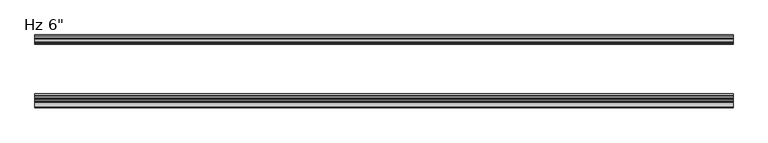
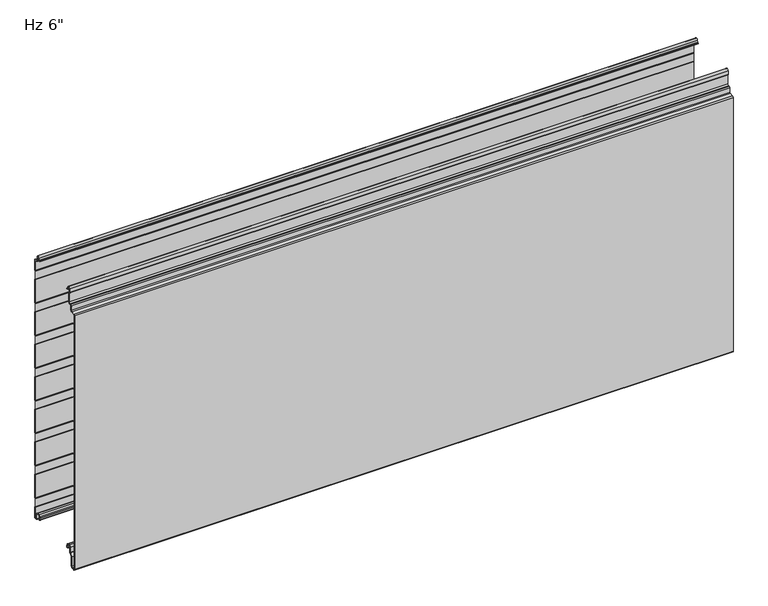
"""IFC4 building model written with IfcOpenShell, lengths in millimetres: plate geometry."""

from ifc_helpers import new_model, si_unit, point, frame, frame_2d, origin, place, context, project, spatial, polyline, circle_curve, trimmed, segment, composite_curve, outline, extrude, source, transform, mapped, element, save
from ifc_brep_helpers import plane_surface, cylinder_surface, revolved_surface, advanced_brep


def plate_39003616(model_context):
    return source(origin(), model_context, "Body", "SolidModel", [
        advanced_brep(
        [(-730.0, -17.0015159, 2.0313088), (-730.0, -18.0015191, 1.0313116), (-730.0, -19.0015104, 2.0313088), (-730.0, -19.0015105, 6.0315125), (-730.0, -18.0015159, 6.0315125), (-730.0, -18.0015159, 8.7237223), (-730.0, -14.7015202, 12.023718), (-730.0, -10.301529, 12.023718), (-730.0, -7.0015335, 8.7237225), (-730.0, -7.0015335, -1.6962564), (-730.0, -5.2315393, -3.4662506), (-730.0, -0.9999916, -3.4662506), (-730.0, -0.9999916, 21.034026), (-730.0, -2.2002307, 22.4196686), (-730.0, -2.2002307, 41.7948349), (-730.0, -1.0, 43.1804679), (-730.0, -1.0, 97.2338833), (-730.0, -2.2002307, 98.6195162), (-730.0, -2.2002307, 117.9946825), (-730.0, -1.0, 119.3803155), (-730.0, -1.0, 173.4337309), (-730.0, -2.2002307, 174.8193638), (-730.0, -2.2002307, 194.1945301), (-730.0, -1.0, 195.5801631), (-730.0, -1.0, 249.6335785), (-730.0, -2.2002307, 251.0192114), (-730.0, -2.2002307, 270.3943777), (-730.0, -1.0, 271.7800107), (-730.0, -1.0, 325.8334261), (-730.0, -2.2002307, 327.219059), (-730.0, -2.2002307, 346.5942253), (-730.0, -1.0, 347.9798583), (-730.0, -1.0, 402.0332737), (-730.0, -2.2002307, 403.4189066), (-730.0, -2.2002307, 422.7940729), (-730.0, -1.0, 424.1797059), (-730.0, -1.0, 478.2331213), (-730.0, -2.2002307, 479.6187542), (-730.0, -2.2002307, 498.9939205), (-730.0, -1.0, 500.3795535), (-730.0, -1.0, 554.4329689), (-730.0, -2.2002307, 555.8186018), (-730.0, -2.2002307, 575.1937681), (-730.0, -1.0, 576.5794011), (-730.0, -1.0, 601.0787013), (-730.0, -6.0026007, 601.0787013), (-730.0, -9.9974365, 604.9016499), (-730.0, -10.4046442, 613.3931719), (-730.0, -14.7059822, 613.3921924), (-730.0, -14.9256429, 609.2513685), (-730.0, -16.6743462, 607.5686884), (-730.0, -19.0015288, 607.5686884), (-730.0, -19.0015288, 608.5686884), (-730.0, -16.6743462, 608.5686884), (-730.0, -15.9247038, 609.2955779), (-730.0, -15.7045782, 613.4451655), (-730.0, -9.405912, 613.4435732), (-730.0, -8.9985844, 604.9495495), (-730.0, -6.0004836, 602.0787013), (-730.0, -1.4015652, 602.0787013), (-730.0, -0.001568, 600.678797), (-730.0, 2.09e-05, 576.7275849), (-730.0, -0.3417885, 575.8119353), (-730.0, -1.2002307, 574.8208877), (-730.0, -1.2002307, 556.1914823), (-730.0, -0.3417885, 555.2004346), (-730.0, 0.0, 554.2838177), (-730.0, 0.0, 500.5287046), (-730.0, -0.3417885, 499.6120877), (-730.0, -1.2002307, 498.6210401), (-730.0, -1.2002307, 479.9916347), (-730.0, -0.3417885, 479.000587), (-730.0, 0.0, 478.0839701), (-730.0, 0.0, 424.328857), (-730.0, -0.3417885, 423.4122401), (-730.0, -1.2002307, 422.4211925), (-730.0, -1.2002307, 403.7917871), (-730.0, -0.3417885, 402.8007394), (-730.0, 0.0, 401.8841225), (-730.0, 0.0, 348.1290094), (-730.0, -0.3417885, 347.2123925), (-730.0, -1.2002307, 346.2213449), (-730.0, -1.2002307, 327.5919395), (-730.0, -0.3417885, 326.6008918), (-730.0, 0.0, 325.6842749), (-730.0, 0.0, 271.9291618), (-730.0, -0.3417885, 271.0125449), (-730.0, -1.2002307, 270.0214973), (-730.0, -1.2002307, 251.3920919), (-730.0, -0.3417885, 250.4010442), (-730.0, 0.0, 249.4844273), (-730.0, 0.0, 195.7293142), (-730.0, -0.3417885, 194.8126973), (-730.0, -1.2002307, 193.8216497), (-730.0, -1.2002307, 175.1922443), (-730.0, -0.3417885, 174.2011966), (-730.0, 0.0, 173.2845797), (-730.0, 0.0, 119.5294666), (-730.0, -0.3417885, 118.6128497), (-730.0, -1.2002307, 117.6218021), (-730.0, -1.2002307, 98.9923967), (-730.0, -0.3417885, 98.001349), (-730.0, 0.0, 97.0847321), (-730.0, 0.0, 43.329619), (-730.0, -0.3417885, 42.4130021), (-730.0, -1.2002307, 41.4219545), (-730.0, -1.2002307, 22.7925491), (-730.0, -0.3417885, 21.8015014), (-730.0, 0.0, 20.8847931), (-730.0, 8.4e-06, -3.0662545), (-730.0, -1.3999878, -4.4662506), (-730.0, -5.2315393, -4.4662506), (-730.0, -8.0015335, -1.6962564), (-730.0, -8.0015335, 8.7237225), (-730.0, -10.301529, 11.023718), (-730.0, -14.7015202, 11.023718), (-730.0, -17.0015159, 8.7237223), (730.0, -17.0015159, 2.0313088), (730.0, -17.0015159, 8.7237223), (730.0, -14.7015202, 11.023718), (730.0, -10.301529, 11.023718), (730.0, -8.0015335, 8.7237225), (730.0, -8.0015335, -1.6962564), (730.0, -5.2315393, -4.4662506), (730.0, -1.3999878, -4.4662506), (730.0, 8.4e-06, -3.0662545), (730.0, 8.4e-06, 20.8848845), (730.0, -0.3417885, 21.8015014), (730.0, -1.2002307, 22.7925491), (730.0, -1.2002307, 41.4219545), (730.0, -0.3417885, 42.4130021), (730.0, 0.0, 43.329619), (730.0, 0.0, 97.0847321), (730.0, -0.3417885, 98.001349), (730.0, -1.2002307, 98.9923967), (730.0, -1.2002307, 117.6218021), (730.0, -0.3417885, 118.6128497), (730.0, 0.0, 119.5294666), (730.0, 0.0, 173.2845797), (730.0, -0.3417885, 174.2011966), (730.0, -1.2002307, 175.1922443), (730.0, -1.2002307, 193.8216497), (730.0, -0.3417885, 194.8126973), (730.0, 0.0, 195.7293142), (730.0, 0.0, 249.4844273), (730.0, -0.3417885, 250.4010442), (730.0, -1.2002307, 251.3920919), (730.0, -1.2002307, 270.0214973), (730.0, -0.3417885, 271.0125449), (730.0, 0.0, 271.9291618), (730.0, 0.0, 325.6842749), (730.0, -0.3417885, 326.6008918), (730.0, -1.2002307, 327.5919395), (730.0, -1.2002307, 346.2213449), (730.0, -0.3417885, 347.2123925), (730.0, 0.0, 348.1290094), (730.0, 0.0, 401.8841225), (730.0, -0.3417885, 402.8007394), (730.0, -1.2002307, 403.7917871), (730.0, -1.2002307, 422.4211925), (730.0, -0.3417885, 423.4122401), (730.0, 0.0, 424.328857), (730.0, 0.0, 478.0839701), (730.0, -0.3417885, 479.000587), (730.0, -1.2002307, 479.9916347), (730.0, -1.2002307, 498.6210401), (730.0, -0.3417885, 499.6120877), (730.0, 0.0, 500.5287046), (730.0, 0.0, 554.2838177), (730.0, -0.3417885, 555.2004346), (730.0, -1.2002307, 556.1914823), (730.0, -1.2002307, 574.8208877), (730.0, -0.3417885, 575.8119353), (730.0, 0.0, 576.7285522), (730.0, 2.09e-05, 600.678797), (730.0, -1.4015652, 602.0787013), (730.0, -6.0004836, 602.0787013), (730.0, -8.9985844, 604.9495495), (730.0, -9.405912, 613.4435732), (730.0, -15.7045782, 613.4451655), (730.0, -15.9247038, 609.2955779), (730.0, -16.6743462, 608.5686884), (730.0, -19.0015288, 608.5686884), (730.0, -19.0015288, 607.5686884), (730.0, -16.6743462, 607.5686884), (730.0, -14.9256429, 609.2513685), (730.0, -14.7059822, 613.3921924), (730.0, -10.4046442, 613.3931719), (730.0, -9.9974365, 604.9016499), (730.0, -6.0026007, 601.0787013), (730.0, -1.0, 601.0787013), (730.0, -1.0, 576.5794011), (730.0, -2.2002307, 575.1937681), (730.0, -2.2002307, 555.8186018), (730.0, -1.0, 554.4329689), (730.0, -1.0, 500.3795535), (730.0, -2.2002307, 498.9939205), (730.0, -2.2002307, 479.6187542), (730.0, -1.0, 478.2331213), (730.0, -1.0, 424.1797059), (730.0, -2.2002307, 422.7940729), (730.0, -2.2002307, 403.4189066), (730.0, -1.0, 402.0332737), (730.0, -1.0, 347.9798583), (730.0, -2.2002307, 346.5942253), (730.0, -2.2002307, 327.219059), (730.0, -1.0, 325.8334261), (730.0, -1.0, 271.7800107), (730.0, -2.2002307, 270.3943777), (730.0, -2.2002307, 251.0192114), (730.0, -1.0, 249.6335785), (730.0, -1.0, 195.5801631), (730.0, -2.2002307, 194.1945301), (730.0, -2.2002307, 174.8193638), (730.0, -1.0, 173.4337309), (730.0, -1.0, 119.3803155), (730.0, -2.2002307, 117.9946825), (730.0, -2.2002307, 98.6195162), (730.0, -1.0, 97.2338833), (730.0, -1.0, 43.1804679), (730.0, -2.2002307, 41.7948349), (730.0, -2.2002307, 22.4196686), (730.0, -0.9999916, 21.034026), (730.0, -0.9999916, -3.4662506), (730.0, -5.2315393, -3.4662506), (730.0, -7.0015335, -1.6962564), (730.0, -7.0015335, 8.7237225), (730.0, -10.301529, 12.023718), (730.0, -14.7015202, 12.023718), (730.0, -18.0015159, 8.7237223), (730.0, -18.0015159, 6.0315125), (730.0, -19.0015105, 6.0315125), (730.0, -19.0015105, 2.0313088), (730.0, -18.0015191, 1.0313116)],
        [
            (0, 1, circle_curve(frame((-730.0, -18.0015132, 2.0313088), z_axis=(-1.0, 0.0, 0.0), x_axis=(0.0, 0.0, 1.0)), 0.9999973)),
            (1, 2, circle_curve(frame((-730.0, -18.0015132, 2.0313088), z_axis=(-1.0, 0.0, 0.0), x_axis=(0.0, 0.0, 1.0)), 0.9999972)),
            (2, 3),
            (3, 4),
            (4, 5),
            (5, 6, circle_curve(frame((-730.0, -14.7015202, 8.7237223), z_axis=(-1.0, 0.0, 0.0), x_axis=(0.0, 0.0, 1.0)), 3.2999957)),
            (6, 7),
            (7, 8, circle_curve(frame((-730.0, -10.301529, 8.7237225), z_axis=(-1.0, 0.0, 0.0), x_axis=(0.0, 0.0, 1.0)), 3.2999955)),
            (8, 9),
            (9, 10, circle_curve(frame((-730.0, -5.2315393, -1.6962564), z_axis=(1.0, 0.0, 0.0), x_axis=(0.0, 0.0, 1.0)), 1.7699942)),
            (10, 11),
            (11, 12),
            (12, 13),
            (13, 14),
            (14, 15),
            (15, 16),
            (16, 17),
            (17, 18),
            (18, 19),
            (19, 20),
            (20, 21),
            (21, 22),
            (22, 23),
            (23, 24),
            (24, 25),
            (25, 26),
            (26, 27),
            (27, 28),
            (28, 29),
            (29, 30),
            (30, 31),
            (31, 32),
            (32, 33),
            (33, 34),
            (34, 35),
            (35, 36),
            (36, 37),
            (37, 38),
            (38, 39),
            (39, 40),
            (40, 41),
            (41, 42),
            (42, 43),
            (43, 44),
            (44, 45),
            (45, 46, circle_curve(frame((-730.0, -5.9867338, 605.0939817), z_axis=(-1.0, 0.0, 0.0), x_axis=(0.0, 0.0, 1.0)), 4.0153117)),
            (46, 47),
            (47, 48, circle_curve(frame((-730.0, -12.5552871, 613.2781032), z_axis=(1.0, 0.0, 0.0), x_axis=(0.0, 0.0, 1.0)), 2.153719)),
            (48, 49),
            (49, 50, circle_curve(frame((-730.0, -16.6743462, 609.3186869), z_axis=(-1.0, 0.0, 0.0), x_axis=(0.0, 0.0, 1.0)), 1.7499985)),
            (50, 51),
            (51, 52),
            (52, 53),
            (53, 54, circle_curve(frame((-730.0, -16.6743462, 609.3186869), z_axis=(1.0, 0.0, 0.0), x_axis=(0.0, 0.0, 1.0)), 0.7499985)),
            (54, 55),
            (55, 56, circle_curve(frame((-730.0, -12.5552871, 613.2781032), z_axis=(-1.0, 0.0, 0.0), x_axis=(0.0, 0.0, 1.0)), 3.153719)),
            (56, 57),
            (57, 58, circle_curve(frame((-730.0, -5.9867338, 605.0939817), z_axis=(1.0, 0.0, 0.0), x_axis=(0.0, 0.0, 1.0)), 3.0153117)),
            (58, 59),
            (59, 60, circle_curve(frame((-730.0, -1.4015652, 600.6787041), z_axis=(-1.0, 0.0, 0.0), x_axis=(0.0, 0.0, 1.0)), 1.3999972)),
            (60, 61),
            (61, 62, circle_curve(frame((-730.0, -1.3999972, 576.7285522), z_axis=(-1.0, 0.0, 0.0), x_axis=(0.0, 0.0, 1.0)), 1.3999972)),
            (62, 63),
            (63, 64),
            (64, 65),
            (65, 66, circle_curve(frame((-730.0, -1.3999972, 554.2838177), z_axis=(-1.0, 0.0, 0.0), x_axis=(0.0, 0.0, 1.0)), 1.3999972)),
            (66, 67),
            (67, 68, circle_curve(frame((-730.0, -1.3999972, 500.5287046), z_axis=(-1.0, 0.0, 0.0), x_axis=(0.0, 0.0, 1.0)), 1.3999972)),
            (68, 69),
            (69, 70),
            (70, 71),
            (71, 72, circle_curve(frame((-730.0, -1.3999972, 478.0839701), z_axis=(-1.0, 0.0, 0.0), x_axis=(0.0, 0.0, 1.0)), 1.3999972)),
            (72, 73),
            (73, 74, circle_curve(frame((-730.0, -1.3999972, 424.328857), z_axis=(-1.0, 0.0, 0.0), x_axis=(0.0, 0.0, 1.0)), 1.3999972)),
            (74, 75),
            (75, 76),
            (76, 77),
            (77, 78, circle_curve(frame((-730.0, -1.3999972, 401.8841225), z_axis=(-1.0, 0.0, 0.0), x_axis=(0.0, 0.0, 1.0)), 1.3999972)),
            (78, 79),
            (79, 80, circle_curve(frame((-730.0, -1.3999972, 348.1290094), z_axis=(-1.0, 0.0, 0.0), x_axis=(0.0, 0.0, 1.0)), 1.3999972)),
            (80, 81),
            (81, 82),
            (82, 83),
            (83, 84, circle_curve(frame((-730.0, -1.3999972, 325.6842749), z_axis=(-1.0, 0.0, 0.0), x_axis=(0.0, 0.0, 1.0)), 1.3999972)),
            (84, 85),
            (85, 86, circle_curve(frame((-730.0, -1.3999972, 271.9291618), z_axis=(-1.0, 0.0, 0.0), x_axis=(0.0, 0.0, 1.0)), 1.3999972)),
            (86, 87),
            (87, 88),
            (88, 89),
            (89, 90, circle_curve(frame((-730.0, -1.3999972, 249.4844273), z_axis=(-1.0, 0.0, 0.0), x_axis=(0.0, 0.0, 1.0)), 1.3999972)),
            (90, 91),
            (91, 92, circle_curve(frame((-730.0, -1.3999972, 195.7293142), z_axis=(-1.0, 0.0, 0.0), x_axis=(0.0, 0.0, 1.0)), 1.3999972)),
            (92, 93),
            (93, 94),
            (94, 95),
            (95, 96, circle_curve(frame((-730.0, -1.3999972, 173.2845797), z_axis=(-1.0, 0.0, 0.0), x_axis=(0.0, 0.0, 1.0)), 1.3999972)),
            (96, 97),
            (97, 98, circle_curve(frame((-730.0, -1.3999972, 119.5294666), z_axis=(-1.0, 0.0, 0.0), x_axis=(0.0, 0.0, 1.0)), 1.3999972)),
            (98, 99),
            (99, 100),
            (100, 101),
            (101, 102, circle_curve(frame((-730.0, -1.3999972, 97.0847321), z_axis=(-1.0, 0.0, 0.0), x_axis=(0.0, 0.0, 1.0)), 1.3999972)),
            (102, 103),
            (103, 104, circle_curve(frame((-730.0, -1.3999972, 43.329619), z_axis=(-1.0, 0.0, 0.0), x_axis=(0.0, 0.0, 1.0)), 1.3999972)),
            (104, 105),
            (105, 106),
            (106, 107),
            (107, 108, circle_curve(frame((-730.0, -1.3999972, 20.8848845), z_axis=(-1.0, 0.0, 0.0), x_axis=(0.0, 0.0, 1.0)), 1.3999972)),
            (108, 109),
            (109, 110, circle_curve(frame((-730.0, -1.3999878, -3.0662545), z_axis=(-1.0, 0.0, 0.0), x_axis=(0.0, 0.0, 1.0)), 1.3999962)),
            (110, 111),
            (111, 112, circle_curve(frame((-730.0, -5.2315393, -1.6962564), z_axis=(-1.0, 0.0, 0.0), x_axis=(0.0, 0.0, 1.0)), 2.7699942)),
            (112, 113),
            (113, 114, circle_curve(frame((-730.0, -10.301529, 8.7237225), z_axis=(1.0, 0.0, 0.0), x_axis=(0.0, 0.0, 1.0)), 2.2999955)),
            (114, 115),
            (115, 116, circle_curve(frame((-730.0, -14.7015202, 8.7237223), z_axis=(1.0, 0.0, 0.0), x_axis=(0.0, 0.0, 1.0)), 2.2999957)),
            (116, 0),
            (117, 118),
            (118, 119, circle_curve(frame((730.0, -14.7015202, 8.7237223), z_axis=(-1.0, 0.0, 0.0), x_axis=(0.0, 0.0, 1.0)), 2.2999957)),
            (119, 120),
            (120, 121, circle_curve(frame((730.0, -10.301529, 8.7237225), z_axis=(-1.0, 0.0, 0.0), x_axis=(0.0, 0.0, 1.0)), 2.2999955)),
            (121, 122),
            (122, 123, circle_curve(frame((730.0, -5.2315393, -1.6962564), z_axis=(1.0, 0.0, 0.0), x_axis=(0.0, 0.0, 1.0)), 2.7699942)),
            (123, 124),
            (124, 125, circle_curve(frame((730.0, -1.3999878, -3.0662545), z_axis=(1.0, 0.0, 0.0), x_axis=(0.0, 0.0, 1.0)), 1.3999962)),
            (125, 126),
            (126, 127, circle_curve(frame((730.0, -1.3999972, 20.8848845), z_axis=(1.0, 0.0, 0.0), x_axis=(0.0, 0.0, 1.0)), 1.3999972)),
            (127, 128),
            (128, 129),
            (129, 130),
            (130, 131, circle_curve(frame((730.0, -1.3999972, 43.329619), z_axis=(1.0, 0.0, 0.0), x_axis=(0.0, 0.0, 1.0)), 1.3999972)),
            (131, 132),
            (132, 133, circle_curve(frame((730.0, -1.3999972, 97.0847321), z_axis=(1.0, 0.0, 0.0), x_axis=(0.0, 0.0, 1.0)), 1.3999972)),
            (133, 134),
            (134, 135),
            (135, 136),
            (136, 137, circle_curve(frame((730.0, -1.3999972, 119.5294666), z_axis=(1.0, 0.0, 0.0), x_axis=(0.0, 0.0, 1.0)), 1.3999972)),
            (137, 138),
            (138, 139, circle_curve(frame((730.0, -1.3999972, 173.2845797), z_axis=(1.0, 0.0, 0.0), x_axis=(0.0, 0.0, 1.0)), 1.3999972)),
            (139, 140),
            (140, 141),
            (141, 142),
            (142, 143, circle_curve(frame((730.0, -1.3999972, 195.7293142), z_axis=(1.0, 0.0, 0.0), x_axis=(0.0, 0.0, 1.0)), 1.3999972)),
            (143, 144),
            (144, 145, circle_curve(frame((730.0, -1.3999972, 249.4844273), z_axis=(1.0, 0.0, 0.0), x_axis=(0.0, 0.0, 1.0)), 1.3999972)),
            (145, 146),
            (146, 147),
            (147, 148),
            (148, 149, circle_curve(frame((730.0, -1.3999972, 271.9291618), z_axis=(1.0, 0.0, 0.0), x_axis=(0.0, 0.0, 1.0)), 1.3999972)),
            (149, 150),
            (150, 151, circle_curve(frame((730.0, -1.3999972, 325.6842749), z_axis=(1.0, 0.0, 0.0), x_axis=(0.0, 0.0, 1.0)), 1.3999972)),
            (151, 152),
            (152, 153),
            (153, 154),
            (154, 155, circle_curve(frame((730.0, -1.3999972, 348.1290094), z_axis=(1.0, 0.0, 0.0), x_axis=(0.0, 0.0, 1.0)), 1.3999972)),
            (155, 156),
            (156, 157, circle_curve(frame((730.0, -1.3999972, 401.8841225), z_axis=(1.0, 0.0, 0.0), x_axis=(0.0, 0.0, 1.0)), 1.3999972)),
            (157, 158),
            (158, 159),
            (159, 160),
            (160, 161, circle_curve(frame((730.0, -1.3999972, 424.328857), z_axis=(1.0, 0.0, 0.0), x_axis=(0.0, 0.0, 1.0)), 1.3999972)),
            (161, 162),
            (162, 163, circle_curve(frame((730.0, -1.3999972, 478.0839701), z_axis=(1.0, 0.0, 0.0), x_axis=(0.0, 0.0, 1.0)), 1.3999972)),
            (163, 164),
            (164, 165),
            (165, 166),
            (166, 167, circle_curve(frame((730.0, -1.3999972, 500.5287046), z_axis=(1.0, 0.0, 0.0), x_axis=(0.0, 0.0, 1.0)), 1.3999972)),
            (167, 168),
            (168, 169, circle_curve(frame((730.0, -1.3999972, 554.2838177), z_axis=(1.0, 0.0, 0.0), x_axis=(0.0, 0.0, 1.0)), 1.3999972)),
            (169, 170),
            (170, 171),
            (171, 172),
            (172, 173, circle_curve(frame((730.0, -1.3999972, 576.7285522), z_axis=(1.0, 0.0, 0.0), x_axis=(0.0, 0.0, 1.0)), 1.3999972)),
            (173, 174),
            (174, 175, circle_curve(frame((730.0, -1.4015652, 600.6787041), z_axis=(1.0, 0.0, 0.0), x_axis=(0.0, 0.0, 1.0)), 1.3999972)),
            (175, 176),
            (176, 177, circle_curve(frame((730.0, -5.9867338, 605.0939817), z_axis=(-1.0, 0.0, 0.0), x_axis=(0.0, 0.0, 1.0)), 3.0153117)),
            (177, 178),
            (178, 179, circle_curve(frame((730.0, -12.5552871, 613.2781032), z_axis=(1.0, 0.0, 0.0), x_axis=(0.0, 0.0, 1.0)), 3.153719)),
            (179, 180),
            (180, 181, circle_curve(frame((730.0, -16.6743462, 609.3186869), z_axis=(-1.0, 0.0, 0.0), x_axis=(0.0, 0.0, 1.0)), 0.7499985)),
            (181, 182),
            (182, 183),
            (183, 184),
            (184, 185, circle_curve(frame((730.0, -16.6743462, 609.3186869), z_axis=(1.0, 0.0, 0.0), x_axis=(0.0, 0.0, 1.0)), 1.7499985)),
            (185, 186),
            (186, 187, circle_curve(frame((730.0, -12.5552871, 613.2781032), z_axis=(-1.0, 0.0, 0.0), x_axis=(0.0, 0.0, 1.0)), 2.153719)),
            (187, 188),
            (188, 189, circle_curve(frame((730.0, -5.9867338, 605.0939817), z_axis=(1.0, 0.0, 0.0), x_axis=(0.0, 0.0, 1.0)), 4.0153117)),
            (189, 190),
            (190, 191),
            (191, 192),
            (192, 193),
            (193, 194),
            (194, 195),
            (195, 196),
            (196, 197),
            (197, 198),
            (198, 199),
            (199, 200),
            (200, 201),
            (201, 202),
            (202, 203),
            (203, 204),
            (204, 205),
            (205, 206),
            (206, 207),
            (207, 208),
            (208, 209),
            (209, 210),
            (210, 211),
            (211, 212),
            (212, 213),
            (213, 214),
            (214, 215),
            (215, 216),
            (216, 217),
            (217, 218),
            (218, 219),
            (219, 220),
            (220, 221),
            (221, 222),
            (222, 223),
            (223, 224),
            (224, 225, circle_curve(frame((730.0, -5.2315393, -1.6962564), z_axis=(-1.0, 0.0, 0.0), x_axis=(0.0, 0.0, 1.0)), 1.7699942)),
            (225, 226),
            (226, 227, circle_curve(frame((730.0, -10.301529, 8.7237225), z_axis=(1.0, 0.0, 0.0), x_axis=(0.0, 0.0, 1.0)), 3.2999955)),
            (227, 228),
            (228, 229, circle_curve(frame((730.0, -14.7015202, 8.7237223), z_axis=(1.0, 0.0, 0.0), x_axis=(0.0, 0.0, 1.0)), 3.2999957)),
            (229, 230),
            (230, 231),
            (231, 232),
            (232, 233, circle_curve(frame((730.0, -18.0015132, 2.0313088), z_axis=(1.0, 0.0, 0.0), x_axis=(0.0, 0.0, 1.0)), 0.9999972)),
            (233, 117, circle_curve(frame((730.0, -18.0015132, 2.0313088), z_axis=(1.0, 0.0, 0.0), x_axis=(0.0, 0.0, 1.0)), 0.9999973)),
            (116, 118),
            (117, 0),
            (115, 119),
            (114, 120),
            (113, 121),
            (112, 122),
            (111, 123),
            (110, 124),
            (109, 125),
            (108, 126),
            (90, 144),
            (143, 91),
            (107, 127),
            (106, 128),
            (105, 129),
            (103, 131),
            (130, 104),
            (101, 133),
            (132, 102),
            (86, 148),
            (147, 87),
            (142, 92),
            (141, 93),
            (96, 138),
            (137, 97),
            (89, 145),
            (88, 146),
            (85, 149),
            (136, 98),
            (99, 135),
            (134, 100),
            (95, 139),
            (94, 140),
            (2, 232),
            (231, 3),
            (1, 233),
            (84, 150),
            (83, 151),
            (82, 152),
            (81, 153),
            (80, 154),
            (79, 155),
            (78, 156),
            (77, 157),
            (76, 158),
            (75, 159),
            (74, 160),
            (73, 161),
            (72, 162),
            (71, 163),
            (70, 164),
            (69, 165),
            (68, 166),
            (67, 167),
            (66, 168),
            (65, 169),
            (64, 170),
            (63, 171),
            (62, 172),
            (61, 173),
            (60, 174),
            (59, 175),
            (58, 176),
            (57, 177),
            (56, 178),
            (55, 179),
            (54, 180),
            (53, 181),
            (52, 182),
            (51, 183),
            (50, 184),
            (49, 185),
            (48, 186),
            (47, 187),
            (46, 188),
            (45, 189),
            (44, 190),
            (43, 191),
            (42, 192),
            (41, 193),
            (40, 194),
            (39, 195),
            (38, 196),
            (37, 197),
            (36, 198),
            (35, 199),
            (34, 200),
            (33, 201),
            (32, 202),
            (31, 203),
            (30, 204),
            (29, 205),
            (28, 206),
            (27, 207),
            (26, 208),
            (25, 209),
            (24, 210),
            (23, 211),
            (22, 212),
            (21, 213),
            (20, 214),
            (19, 215),
            (18, 216),
            (17, 217),
            (16, 218),
            (15, 219),
            (14, 220),
            (13, 221),
            (12, 222),
            (11, 223),
            (10, 224),
            (9, 225),
            (8, 226),
            (7, 227),
            (6, 228),
            (5, 229),
            (4, 230),
        ],
        [
            plane_surface(frame((-730.0, 0.0, 304.8), z_axis=(-1.0, 0.0, 0.0), x_axis=(0.0, 1.0, 0.0))),
            plane_surface(frame((730.0, 0.0, 304.8), z_axis=(1.0, 0.0, 0.0), x_axis=(0.0, 1.0, 0.0))),
            plane_surface(frame((-730.0, -17.0015159, 2.0313088), z_axis=(0.0, 1.0, 0.0), x_axis=(1.0, 0.0, 0.0))),
            revolved_surface(polyline([(730.0, -14.7015202, 11.023718), (-730.0, -14.7015202, 11.023718)]), (-730.0, -14.7015202, 8.7237223), (1.0, 0.0, 0.0)),
            plane_surface(frame((-730.0, -14.7015202, 11.023718), z_axis=(0.0, 0.0, -1.0), x_axis=(1.0, 0.0, 0.0))),
            revolved_surface(polyline([(730.0, -10.301529, 11.023717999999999), (-730.0, -10.301529, 11.023717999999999)]), (-730.0, -10.301529, 8.7237225), (1.0, 0.0, 0.0)),
            plane_surface(frame((-730.0, -8.0015335, 8.7237225), z_axis=(0.0, -1.0, 0.0), x_axis=(1.0, 0.0, 0.0))),
            cylinder_surface(frame((-730.0, -5.2315393, -1.6962564), z_axis=(-1.0, 0.0, 0.0), x_axis=(0.0, 0.0, 1.0)), 2.7699942),
            plane_surface(frame((-730.0, -5.2315393, -4.4662506), z_axis=(0.0, 0.0, -1.0), x_axis=(1.0, 0.0, 0.0))),
            cylinder_surface(frame((-730.0, -1.3999878, -3.0662545), z_axis=(-1.0, 0.0, 0.0), x_axis=(0.0, 0.0, 1.0)), 1.3999962),
            plane_surface(frame((-730.0, 8.4e-06, -3.0662545), z_axis=(0.0, 1.0, 0.0), x_axis=(1.0, 0.0, 0.0))),
            plane_surface(frame((-730.0, 0.0, 195.7293142), z_axis=(0.0, 1.0, 0.0), x_axis=(1.0, 0.0, 0.0))),
            cylinder_surface(frame((-730.0, -1.3999972, 20.8848845), z_axis=(-1.0, 0.0, 0.0), x_axis=(0.0, 0.0, 1.0)), 1.3999972),
            plane_surface(frame((-730.0, -0.3417885, 21.8015014), z_axis=(0.0, 0.755864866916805, 0.6547276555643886), x_axis=(1.0, 0.0, 0.0))),
            plane_surface(frame((-730.0, -1.2002307, 32.1072518), z_axis=(0.0, 1.0, 0.0), x_axis=(1.0, 0.0, 0.0))),
            cylinder_surface(frame((-730.0, -1.3999972, 43.329619), z_axis=(-1.0, 0.0, 0.0), x_axis=(0.0, 0.0, 1.0)), 1.3999972),
            plane_surface(frame((-730.0, -1.2002307, 41.4219545), z_axis=(0.0, 0.755864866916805, -0.6547276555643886), x_axis=(1.0, 0.0, 0.0))),
            cylinder_surface(frame((-730.0, -1.3999972, 97.0847321), z_axis=(-1.0, 0.0, 0.0), x_axis=(0.0, 0.0, 1.0)), 1.3999972),
            plane_surface(frame((-730.0, -1.2002307, 270.0214973), z_axis=(0.0, 0.755864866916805, -0.6547276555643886), x_axis=(1.0, 0.0, 0.0))),
            cylinder_surface(frame((-730.0, -1.3999972, 195.7293142), z_axis=(-1.0, 0.0, 0.0), x_axis=(0.0, 0.0, 1.0)), 1.3999972),
            plane_surface(frame((-730.0, -1.2002307, 193.8216497), z_axis=(0.0, 0.755864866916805, -0.6547276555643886), x_axis=(1.0, 0.0, 0.0))),
            plane_surface(frame((-730.0, 0.0, 119.5294666), z_axis=(0.0, 1.0, 0.0), x_axis=(1.0, 0.0, 0.0))),
            cylinder_surface(frame((-730.0, -1.3999972, 249.4844273), z_axis=(-1.0, 0.0, 0.0), x_axis=(0.0, 0.0, 1.0)), 1.3999972),
            plane_surface(frame((-730.0, -0.3417885, 250.4010442), z_axis=(0.0, 0.755864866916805, 0.6547276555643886), x_axis=(1.0, 0.0, 0.0))),
            plane_surface(frame((-730.0, -1.2002307, 260.7067946), z_axis=(0.0, 1.0, 0.0), x_axis=(1.0, 0.0, 0.0))),
            cylinder_surface(frame((-730.0, -1.3999972, 271.9291618), z_axis=(-1.0, 0.0, 0.0), x_axis=(0.0, 0.0, 1.0)), 1.3999972),
            cylinder_surface(frame((-730.0, -1.3999972, 119.5294666), z_axis=(-1.0, 0.0, 0.0), x_axis=(0.0, 0.0, 1.0)), 1.3999972),
            plane_surface(frame((-730.0, -1.2002307, 108.3070994), z_axis=(0.0, 1.0, 0.0), x_axis=(1.0, 0.0, 0.0))),
            plane_surface(frame((-730.0, -0.3417885, 98.001349), z_axis=(0.0, 0.755864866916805, 0.6547276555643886), x_axis=(1.0, 0.0, 0.0))),
            plane_surface(frame((-730.0, -1.2002307, 117.6218021), z_axis=(0.0, 0.755864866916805, -0.6547276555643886), x_axis=(1.0, 0.0, 0.0))),
            plane_surface(frame((-730.0, 0.0, 43.329619), z_axis=(0.0, 1.0, 0.0), x_axis=(1.0, 0.0, 0.0))),
            cylinder_surface(frame((-730.0, -1.3999972, 173.2845797), z_axis=(-1.0, 0.0, 0.0), x_axis=(0.0, 0.0, 1.0)), 1.3999972),
            plane_surface(frame((-730.0, -0.3417885, 174.2011966), z_axis=(0.0, 0.755864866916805, 0.6547276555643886), x_axis=(1.0, 0.0, 0.0))),
            plane_surface(frame((-730.0, -1.2002307, 184.506947), z_axis=(0.0, 1.0, 0.0), x_axis=(1.0, 0.0, 0.0))),
            plane_surface(frame((-730.0, -19.0015105, 6.0315125), z_axis=(0.0, -1.0, 0.0), x_axis=(1.0, 0.0, 0.0))),
            cylinder_surface(frame((-730.0, -18.0015132, 2.0313088), z_axis=(-1.0, 0.0, 0.0), x_axis=(0.0, 0.0, 1.0)), 0.9999972),
            cylinder_surface(frame((-730.0, -18.0015132, 2.0313088), z_axis=(-1.0, 0.0, 0.0), x_axis=(0.0, 0.0, 1.0)), 0.9999973),
            plane_surface(frame((-730.0, 0.0, 271.9291618), z_axis=(0.0, 1.0, 0.0), x_axis=(1.0, 0.0, 0.0))),
            cylinder_surface(frame((-730.0, -1.3999972, 325.6842749), z_axis=(-1.0, 0.0, 0.0), x_axis=(0.0, 0.0, 1.0)), 1.3999972),
            plane_surface(frame((-730.0, -0.3417885, 326.6008918), z_axis=(0.0, 0.755864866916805, 0.6547276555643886), x_axis=(1.0, 0.0, 0.0))),
            plane_surface(frame((-730.0, -1.2002307, 336.9066422), z_axis=(0.0, 1.0, 0.0), x_axis=(1.0, 0.0, 0.0))),
            plane_surface(frame((-730.0, -1.2002307, 346.2213449), z_axis=(0.0, 0.755864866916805, -0.6547276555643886), x_axis=(1.0, 0.0, 0.0))),
            cylinder_surface(frame((-730.0, -1.3999972, 348.1290094), z_axis=(-1.0, 0.0, 0.0), x_axis=(0.0, 0.0, 1.0)), 1.3999972),
            plane_surface(frame((-730.0, 0.0, 348.1290094), z_axis=(0.0, 1.0, 0.0), x_axis=(1.0, 0.0, 0.0))),
            cylinder_surface(frame((-730.0, -1.3999972, 401.8841225), z_axis=(-1.0, 0.0, 0.0), x_axis=(0.0, 0.0, 1.0)), 1.3999972),
            plane_surface(frame((-730.0, -0.3417885, 402.8007394), z_axis=(0.0, 0.755864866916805, 0.6547276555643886), x_axis=(1.0, 0.0, 0.0))),
            plane_surface(frame((-730.0, -1.2002307, 413.1064898), z_axis=(0.0, 1.0, 0.0), x_axis=(1.0, 0.0, 0.0))),
            plane_surface(frame((-730.0, -1.2002307, 422.4211925), z_axis=(0.0, 0.755864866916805, -0.6547276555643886), x_axis=(1.0, 0.0, 0.0))),
            cylinder_surface(frame((-730.0, -1.3999972, 424.328857), z_axis=(-1.0, 0.0, 0.0), x_axis=(0.0, 0.0, 1.0)), 1.3999972),
            plane_surface(frame((-730.0, 0.0, 424.328857), z_axis=(0.0, 1.0, 0.0), x_axis=(1.0, 0.0, 0.0))),
            cylinder_surface(frame((-730.0, -1.3999972, 478.0839701), z_axis=(-1.0, 0.0, 0.0), x_axis=(0.0, 0.0, 1.0)), 1.3999972),
            plane_surface(frame((-730.0, -0.3417885, 479.000587), z_axis=(0.0, 0.755864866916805, 0.6547276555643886), x_axis=(1.0, 0.0, 0.0))),
            plane_surface(frame((-730.0, -1.2002307, 489.3063374), z_axis=(0.0, 1.0, 0.0), x_axis=(1.0, 0.0, 0.0))),
            plane_surface(frame((-730.0, -1.2002307, 498.6210401), z_axis=(0.0, 0.755864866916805, -0.6547276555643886), x_axis=(1.0, 0.0, 0.0))),
            cylinder_surface(frame((-730.0, -1.3999972, 500.5287046), z_axis=(-1.0, 0.0, 0.0), x_axis=(0.0, 0.0, 1.0)), 1.3999972),
            plane_surface(frame((-730.0, 0.0, 500.5287046), z_axis=(0.0, 1.0, 0.0), x_axis=(1.0, 0.0, 0.0))),
            cylinder_surface(frame((-730.0, -1.3999972, 554.2838177), z_axis=(-1.0, 0.0, 0.0), x_axis=(0.0, 0.0, 1.0)), 1.3999972),
            plane_surface(frame((-730.0, -0.3417885, 555.2004346), z_axis=(0.0, 0.755864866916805, 0.6547276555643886), x_axis=(1.0, 0.0, 0.0))),
            plane_surface(frame((-730.0, -1.2002307, 565.506185), z_axis=(0.0, 1.0, 0.0), x_axis=(1.0, 0.0, 0.0))),
            plane_surface(frame((-730.0, -1.2002307, 574.8208877), z_axis=(0.0, 0.755864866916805, -0.6547276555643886), x_axis=(1.0, 0.0, 0.0))),
            cylinder_surface(frame((-730.0, -1.3999972, 576.7285522), z_axis=(-1.0, 0.0, 0.0), x_axis=(0.0, 0.0, 1.0)), 1.3999972),
            plane_surface(frame((-730.0, 2.09e-05, 576.7275849), z_axis=(0.0, 1.0, 0.0), x_axis=(1.0, 0.0, 0.0))),
            cylinder_surface(frame((-730.0, -1.4015652, 600.6787041), z_axis=(-1.0, 0.0, 0.0), x_axis=(0.0, 0.0, 1.0)), 1.3999972),
            plane_surface(frame((-730.0, -1.4015652, 602.0787013), z_axis=(0.0, 0.0, 1.0), x_axis=(1.0, 0.0, 0.0))),
            revolved_surface(polyline([(730.0, -5.9867338, 608.1092934), (-730.0, -5.9867338, 608.1092934)]), (-730.0, -5.9867338, 605.0939817), (1.0, 0.0, 0.0)),
            plane_surface(frame((-730.0, -8.9985844, 604.9495495), z_axis=(0.0, 0.9988521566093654, 0.047899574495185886), x_axis=(1.0, 0.0, 0.0))),
            cylinder_surface(frame((-730.0, -12.5552871, 613.2781032), z_axis=(-1.0, 0.0, 0.0), x_axis=(0.0, 0.0, 1.0)), 3.153719),
            plane_surface(frame((-730.0, -15.7045782, 613.4451655), z_axis=(0.0, -0.9985959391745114, 0.05297310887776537), x_axis=(1.0, 0.0, 0.0))),
            revolved_surface(polyline([(730.0, -16.6743462, 610.0686853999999), (-730.0, -16.6743462, 610.0686853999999)]), (-730.0, -16.6743462, 609.3186869), (1.0, 0.0, 0.0)),
            plane_surface(frame((-730.0, -17.5871409, 608.5686884), z_axis=(0.0, 0.0, 1.0), x_axis=(1.0, 0.0, 0.0))),
            plane_surface(frame((-730.0, -19.0015288, 608.5686884), z_axis=(0.0, -1.0, 0.0), x_axis=(1.0, 0.0, 0.0))),
            plane_surface(frame((-730.0, -17.5871409, 607.5686884), z_axis=(0.0, 0.0, -1.0), x_axis=(1.0, 0.0, 0.0))),
            cylinder_surface(frame((-730.0, -16.6743462, 609.3186869), z_axis=(-1.0, 0.0, 0.0), x_axis=(0.0, 0.0, 1.0)), 1.7499985),
            plane_surface(frame((-730.0, -14.9256429, 609.2513685), z_axis=(0.0, 0.998595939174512, -0.05297310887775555), x_axis=(1.0, 0.0, 0.0))),
            revolved_surface(polyline([(730.0, -12.5552871, 615.4318222), (-730.0, -12.5552871, 615.4318222)]), (-730.0, -12.5552871, 613.2781032), (1.0, 0.0, 0.0)),
            plane_surface(frame((-730.0, -10.4046442, 613.3931719), z_axis=(0.0, -0.9988521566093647, -0.04789957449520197), x_axis=(1.0, 0.0, 0.0))),
            cylinder_surface(frame((-730.0, -5.9867338, 605.0939817), z_axis=(-1.0, 0.0, 0.0), x_axis=(0.0, 0.0, 1.0)), 4.0153117),
            plane_surface(frame((-730.0, -6.0026007, 601.0787013), z_axis=(0.0, 0.0, -1.0), x_axis=(1.0, 0.0, 0.0))),
            plane_surface(frame((-730.0, -1.0, 601.0787013), z_axis=(0.0, -1.0, 0.0), x_axis=(1.0, 0.0, 0.0))),
            plane_surface(frame((-730.0, -1.0, 576.5794011), z_axis=(0.0, -0.755864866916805, 0.6547276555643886), x_axis=(1.0, 0.0, 0.0))),
            plane_surface(frame((-730.0, -2.2002307, 575.1937681), z_axis=(0.0, -1.0, 0.0), x_axis=(1.0, 0.0, 0.0))),
            plane_surface(frame((-730.0, -2.2002307, 555.8186018), z_axis=(0.0, -0.755864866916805, -0.6547276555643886), x_axis=(1.0, 0.0, 0.0))),
            plane_surface(frame((-730.0, -1.0, 554.4329689), z_axis=(0.0, -1.0, 0.0), x_axis=(1.0, 0.0, 0.0))),
            plane_surface(frame((-730.0, -1.0, 500.3795535), z_axis=(0.0, -0.755864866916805, 0.6547276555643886), x_axis=(1.0, 0.0, 0.0))),
            plane_surface(frame((-730.0, -2.2002307, 498.9939205), z_axis=(0.0, -1.0, 0.0), x_axis=(1.0, 0.0, 0.0))),
            plane_surface(frame((-730.0, -2.2002307, 479.6187542), z_axis=(0.0, -0.755864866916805, -0.6547276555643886), x_axis=(1.0, 0.0, 0.0))),
            plane_surface(frame((-730.0, -1.0, 478.2331213), z_axis=(0.0, -1.0, 0.0), x_axis=(1.0, 0.0, 0.0))),
            plane_surface(frame((-730.0, -1.0, 424.1797059), z_axis=(0.0, -0.755864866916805, 0.6547276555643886), x_axis=(1.0, 0.0, 0.0))),
            plane_surface(frame((-730.0, -2.2002307, 422.7940729), z_axis=(0.0, -1.0, 0.0), x_axis=(1.0, 0.0, 0.0))),
            plane_surface(frame((-730.0, -2.2002307, 403.4189066), z_axis=(0.0, -0.755864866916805, -0.6547276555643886), x_axis=(1.0, 0.0, 0.0))),
            plane_surface(frame((-730.0, -1.0, 402.0332737), z_axis=(0.0, -1.0, 0.0), x_axis=(1.0, 0.0, 0.0))),
            plane_surface(frame((-730.0, -1.0, 347.9798583), z_axis=(0.0, -0.755864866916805, 0.6547276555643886), x_axis=(1.0, 0.0, 0.0))),
            plane_surface(frame((-730.0, -2.2002307, 346.5942253), z_axis=(0.0, -1.0, 0.0), x_axis=(1.0, 0.0, 0.0))),
            plane_surface(frame((-730.0, -2.2002307, 327.219059), z_axis=(0.0, -0.755864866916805, -0.6547276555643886), x_axis=(1.0, 0.0, 0.0))),
            plane_surface(frame((-730.0, -1.0, 325.8334261), z_axis=(0.0, -1.0, 0.0), x_axis=(1.0, 0.0, 0.0))),
            plane_surface(frame((-730.0, -1.0, 271.7800107), z_axis=(0.0, -0.755864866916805, 0.6547276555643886), x_axis=(1.0, 0.0, 0.0))),
            plane_surface(frame((-730.0, -2.2002307, 270.3943777), z_axis=(0.0, -1.0, 0.0), x_axis=(1.0, 0.0, 0.0))),
            plane_surface(frame((-730.0, -2.2002307, 251.0192114), z_axis=(0.0, -0.755864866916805, -0.6547276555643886), x_axis=(1.0, 0.0, 0.0))),
            plane_surface(frame((-730.0, -1.0, 249.6335785), z_axis=(0.0, -1.0, 0.0), x_axis=(1.0, 0.0, 0.0))),
            plane_surface(frame((-730.0, -1.0, 195.5801631), z_axis=(0.0, -0.755864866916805, 0.6547276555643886), x_axis=(1.0, 0.0, 0.0))),
            plane_surface(frame((-730.0, -2.2002307, 194.1945301), z_axis=(0.0, -1.0, 0.0), x_axis=(1.0, 0.0, 0.0))),
            plane_surface(frame((-730.0, -2.2002307, 174.8193638), z_axis=(0.0, -0.755864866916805, -0.6547276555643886), x_axis=(1.0, 0.0, 0.0))),
            plane_surface(frame((-730.0, -1.0, 173.4337309), z_axis=(0.0, -1.0, 0.0), x_axis=(1.0, 0.0, 0.0))),
            plane_surface(frame((-730.0, -1.0, 119.3803155), z_axis=(0.0, -0.755864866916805, 0.6547276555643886), x_axis=(1.0, 0.0, 0.0))),
            plane_surface(frame((-730.0, -2.2002307, 117.9946825), z_axis=(0.0, -1.0, 0.0), x_axis=(1.0, 0.0, 0.0))),
            plane_surface(frame((-730.0, -2.2002307, 98.6195162), z_axis=(0.0, -0.755864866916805, -0.6547276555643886), x_axis=(1.0, 0.0, 0.0))),
            plane_surface(frame((-730.0, -1.0, 97.2338833), z_axis=(0.0, -1.0, 0.0), x_axis=(1.0, 0.0, 0.0))),
            plane_surface(frame((-730.0, -1.0, 43.1804679), z_axis=(0.0, -0.755864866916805, 0.6547276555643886), x_axis=(1.0, 0.0, 0.0))),
            plane_surface(frame((-730.0, -2.2002307, 41.7948349), z_axis=(0.0, -1.0, 0.0), x_axis=(1.0, 0.0, 0.0))),
            plane_surface(frame((-730.0, -2.2002307, 22.4196686), z_axis=(0.0, -0.755864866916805, -0.6547276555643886), x_axis=(1.0, 0.0, 0.0))),
            plane_surface(frame((-730.0, -0.9999916, 21.034026), z_axis=(0.0, -1.0, 0.0), x_axis=(1.0, 0.0, 0.0))),
            plane_surface(frame((-730.0, -0.9999916, -3.4662506), z_axis=(0.0, 0.0, 1.0), x_axis=(1.0, 0.0, 0.0))),
            revolved_surface(polyline([(730.0, -5.2315393, 0.07373779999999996), (-730.0, -5.2315393, 0.07373779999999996)]), (-730.0, -5.2315393, -1.6962564), (1.0, 0.0, 0.0)),
            plane_surface(frame((-730.0, -7.0015335, -1.6962564), z_axis=(0.0, 1.0, 0.0), x_axis=(1.0, 0.0, 0.0))),
            cylinder_surface(frame((-730.0, -10.301529, 8.7237225), z_axis=(-1.0, 0.0, 0.0), x_axis=(0.0, 0.0, 1.0)), 3.2999955),
            plane_surface(frame((-730.0, -10.301529, 12.023718), z_axis=(0.0, 0.0, 1.0), x_axis=(1.0, 0.0, 0.0))),
            cylinder_surface(frame((-730.0, -14.7015202, 8.7237223), z_axis=(-1.0, 0.0, 0.0), x_axis=(0.0, 0.0, 1.0)), 3.2999957),
            plane_surface(frame((-730.0, -18.0015159, 8.7237223), z_axis=(0.0, -1.0, 0.0), x_axis=(1.0, 0.0, 0.0))),
            plane_surface(frame((-730.0, -18.0015159, 6.0315125), z_axis=(0.0, 0.0, 1.0), x_axis=(1.0, 0.0, 0.0))),
        ],
        [
            (0, [[1, 2, 3, 4, 5, 6, 7, 8, 9, 10, 11, 12, 13, 14, 15, 16, 17, 18, 19, 20, 21, 22, 23, 24, 25, 26, 27, 28, 29, 30, 31, 32, 33, 34, 35, 36, 37, 38, 39, 40, 41, 42, 43, 44, 45, 46, 47, 48, 49, 50, 51, 52, 53, 54, 55, 56, 57, 58, 59, 60, 61, 62, 63, 64, 65, 66, 67, 68, 69, 70, 71, 72, 73, 74, 75, 76, 77, 78, 79, 80, 81, 82, 83, 84, 85, 86, 87, 88, 89, 90, 91, 92, 93, 94, 95, 96, 97, 98, 99, 100, 101, 102, 103, 104, 105, 106, 107, 108, 109, 110, 111, 112, 113, 114, 115, 116, 117]]),
            (1, [[118, 119, 120, 121, 122, 123, 124, 125, 126, 127, 128, 129, 130, 131, 132, 133, 134, 135, 136, 137, 138, 139, 140, 141, 142, 143, 144, 145, 146, 147, 148, 149, 150, 151, 152, 153, 154, 155, 156, 157, 158, 159, 160, 161, 162, 163, 164, 165, 166, 167, 168, 169, 170, 171, 172, 173, 174, 175, 176, 177, 178, 179, 180, 181, 182, 183, 184, 185, 186, 187, 188, 189, 190, 191, 192, 193, 194, 195, 196, 197, 198, 199, 200, 201, 202, 203, 204, 205, 206, 207, 208, 209, 210, 211, 212, 213, 214, 215, 216, 217, 218, 219, 220, 221, 222, 223, 224, 225, 226, 227, 228, 229, 230, 231, 232, 233, 234]]),
            (2, [[235, -118, 236, -117]]),
            (3, [[237, -119, -235, -116]]),
            (4, [[238, -120, -237, -115]]),
            (5, [[239, -121, -238, -114]]),
            (6, [[240, -122, -239, -113]]),
            (7, [[241, -123, -240, -112]]),
            (8, [[242, -124, -241, -111]]),
            (9, [[243, -125, -242, -110]]),
            (10, [[244, -126, -243, -109]]),
            (11, [[245, -144, 246, -91]]),
            (12, [[247, -127, -244, -108]]),
            (13, [[248, -128, -247, -107]]),
            (14, [[-106, 249, -129, -248]]),
            (15, [[250, -131, 251, -104]]),
            (16, [[-251, -130, -249, -105]]),
            (17, [[252, -133, 253, -102]]),
            (18, [[254, -148, 255, -87]]),
            (19, [[-246, -143, 256, -92]]),
            (20, [[-256, -142, 257, -93]]),
            (21, [[258, -138, 259, -97]]),
            (22, [[260, -145, -245, -90]]),
            (23, [[261, -146, -260, -89]]),
            (24, [[-88, -255, -147, -261]]),
            (25, [[262, -149, -254, -86]]),
            (26, [[-259, -137, 263, -98]]),
            (27, [[-100, 264, -135, 265]]),
            (28, [[-265, -134, -252, -101]]),
            (29, [[-263, -136, -264, -99]]),
            (30, [[-253, -132, -250, -103]]),
            (31, [[266, -139, -258, -96]]),
            (32, [[267, -140, -266, -95]]),
            (33, [[-94, -257, -141, -267]]),
            (34, [[268, -232, 269, -3]]),
            (35, [[270, -233, -268, -2]]),
            (36, [[-236, -234, -270, -1]]),
            (37, [[271, -150, -262, -85]]),
            (38, [[272, -151, -271, -84]]),
            (39, [[273, -152, -272, -83]]),
            (40, [[-82, 274, -153, -273]]),
            (41, [[275, -154, -274, -81]]),
            (42, [[276, -155, -275, -80]]),
            (43, [[277, -156, -276, -79]]),
            (44, [[278, -157, -277, -78]]),
            (45, [[279, -158, -278, -77]]),
            (46, [[-76, 280, -159, -279]]),
            (47, [[281, -160, -280, -75]]),
            (48, [[282, -161, -281, -74]]),
            (49, [[283, -162, -282, -73]]),
            (50, [[284, -163, -283, -72]]),
            (51, [[285, -164, -284, -71]]),
            (52, [[-70, 286, -165, -285]]),
            (53, [[287, -166, -286, -69]]),
            (54, [[288, -167, -287, -68]]),
            (55, [[289, -168, -288, -67]]),
            (56, [[290, -169, -289, -66]]),
            (57, [[291, -170, -290, -65]]),
            (58, [[-64, 292, -171, -291]]),
            (59, [[293, -172, -292, -63]]),
            (60, [[294, -173, -293, -62]]),
            (61, [[295, -174, -294, -61]]),
            (62, [[296, -175, -295, -60]]),
            (63, [[297, -176, -296, -59]]),
            (64, [[298, -177, -297, -58]]),
            (65, [[299, -178, -298, -57]]),
            (66, [[300, -179, -299, -56]]),
            (67, [[301, -180, -300, -55]]),
            (68, [[302, -181, -301, -54]]),
            (69, [[-53, 303, -182, -302]]),
            (70, [[304, -183, -303, -52]]),
            (71, [[-51, 305, -184, -304]]),
            (72, [[306, -185, -305, -50]]),
            (73, [[307, -186, -306, -49]]),
            (74, [[308, -187, -307, -48]]),
            (75, [[309, -188, -308, -47]]),
            (76, [[310, -189, -309, -46]]),
            (77, [[311, -190, -310, -45]]),
            (78, [[312, -191, -311, -44]]),
            (79, [[313, -192, -312, -43]]),
            (80, [[314, -193, -313, -42]]),
            (81, [[315, -194, -314, -41]]),
            (82, [[316, -195, -315, -40]]),
            (83, [[317, -196, -316, -39]]),
            (84, [[318, -197, -317, -38]]),
            (85, [[319, -198, -318, -37]]),
            (86, [[320, -199, -319, -36]]),
            (87, [[321, -200, -320, -35]]),
            (88, [[322, -201, -321, -34]]),
            (89, [[323, -202, -322, -33]]),
            (90, [[324, -203, -323, -32]]),
            (91, [[325, -204, -324, -31]]),
            (92, [[326, -205, -325, -30]]),
            (93, [[327, -206, -326, -29]]),
            (94, [[328, -207, -327, -28]]),
            (95, [[329, -208, -328, -27]]),
            (96, [[330, -209, -329, -26]]),
            (97, [[331, -210, -330, -25]]),
            (98, [[332, -211, -331, -24]]),
            (99, [[333, -212, -332, -23]]),
            (100, [[334, -213, -333, -22]]),
            (101, [[335, -214, -334, -21]]),
            (102, [[336, -215, -335, -20]]),
            (103, [[337, -216, -336, -19]]),
            (104, [[338, -217, -337, -18]]),
            (105, [[339, -218, -338, -17]]),
            (106, [[340, -219, -339, -16]]),
            (107, [[341, -220, -340, -15]]),
            (108, [[342, -221, -341, -14]]),
            (109, [[343, -222, -342, -13]]),
            (110, [[344, -223, -343, -12]]),
            (111, [[345, -224, -344, -11]]),
            (112, [[346, -225, -345, -10]]),
            (113, [[347, -226, -346, -9]]),
            (114, [[348, -227, -347, -8]]),
            (115, [[349, -228, -348, -7]]),
            (116, [[350, -229, -349, -6]]),
            (117, [[351, -230, -350, -5]]),
            (118, [[-269, -231, -351, -4]]),
        ],
    ),
        extrude(outline(composite_curve([segment(trimmed(circle_curve(frame_2d((-148.8296308, -32.4521063)), 3.5702393), [point((-148.5183604, -36.0087507))], [point((-152.3998701, -32.452104))], False, "CARTESIAN"), True, "CONTINUOUS"), segment(polyline([(-152.3998701, -32.452104), (-152.3994905, 561.1384265)]), True, "CONTINUOUS"), segment(trimmed(circle_curve(frame_2d((-149.4494964, 561.1384246)), 2.9499941), [point((-152.3994905, 561.1384265))], [point((-149.7066053, 564.0771931))], False, "CARTESIAN"), True, "CONTINUOUS"), segment(polyline([(-149.7066053, 564.0771931), (-141.242179, 564.8177344)]), True, "CONTINUOUS"), segment(trimmed(circle_curve(frame_2d((-141.4191048, 566.8400056)), 2.0299959), [point((-141.242179, 564.8177344))], [point((-139.3917189, 566.9429135))], True, "CARTESIAN"), True, "CONTINUOUS"), segment(polyline([(-139.3917189, 566.9429135), (-139.3917189, 577.058279)]), True, "CONTINUOUS"), segment(trimmed(circle_curve(frame_2d((-137.4425659, 577.0595944)), 1.9491534), [point((-139.3917189, 577.058279))], [point((-137.4425659, 579.0087478))], False, "CARTESIAN"), True, "CONTINUOUS"), segment(polyline([(-137.4425659, 579.0087478), (-134.3011658, 579.0087475)]), True, "CONTINUOUS"), segment(trimmed(circle_curve(frame_2d((-134.3011658, 582.0087415)), 2.999994), [point((-134.3011658, 579.0087475))], [point((-131.3011718, 582.0087415))], True, "CARTESIAN"), True, "CONTINUOUS"), segment(polyline([(-131.3011718, 582.0087415), (-131.3011718, 602.6122013), (-132.5470159, 603.3314897)]), True, "CONTINUOUS"), segment(trimmed(circle_curve(frame_2d((-131.8220173, 604.587224)), 1.4499971), [point((-132.5470159, 603.3314897))], [point((-133.2712455, 604.6344401))], False, "CARTESIAN"), True, "CONTINUOUS"), segment(polyline([(-133.2712455, 604.6344401), (-132.9263372, 613.3463704)]), True, "CONTINUOUS"), segment(trimmed(circle_curve(frame_2d((-129.8268913, 613.2236622)), 3.1018739), [point((-132.9263372, 613.3463704))], [point((-126.7277704, 613.3543204))], False, "CARTESIAN"), True, "CONTINUOUS"), segment(polyline([(-126.7277704, 613.3543204), (-126.4839836, 609.3587)]), True, "CONTINUOUS"), segment(trimmed(circle_curve(frame_2d((-125.6437539, 609.4099653)), 0.8417922), [point((-126.4839836, 609.3587))], [point((-125.6732011, 608.5686884))], True, "CARTESIAN"), True, "CONTINUOUS"), segment(polyline([(-125.6732011, 608.5686884), (-122.9027683, 608.5686884), (-122.9027683, 607.5686884), (-125.6873149, 607.5686884)]), True, "CONTINUOUS"), segment(trimmed(circle_curve(frame_2d((-125.6437539, 609.4099653)), 1.8417922), [point((-125.6873149, 607.5686884))], [point((-127.4821274, 609.2977997))], False, "CARTESIAN"), True, "CONTINUOUS"), segment(polyline([(-127.4821274, 609.2977997), (-127.7265424, 613.3037148)]), True, "CONTINUOUS"), segment(trimmed(circle_curve(frame_2d((-129.8268913, 613.2236622)), 2.1018739), [point((-127.7265424, 613.3037148))], [point((-131.9271199, 613.306811))], True, "CARTESIAN"), True, "CONTINUOUS"), segment(polyline([(-131.9271199, 613.306811), (-132.2823803, 604.3334028), (-130.3011718, 603.1895515), (-130.3011718, 582.0087415)]), True, "CONTINUOUS"), segment(trimmed(circle_curve(frame_2d((-134.3011658, 582.0087415)), 3.999994), [point((-130.3011718, 582.0087415))], [point((-134.3011658, 578.0087475))], False, "CARTESIAN"), True, "CONTINUOUS"), segment(polyline([(-134.3011658, 578.0087475), (-137.4425659, 578.0087475)]), True, "CONTINUOUS"), segment(trimmed(circle_curve(frame_2d((-137.4425659, 577.0595944)), 0.9491534), [point((-137.4425659, 578.0087475))], [point((-138.3917189, 577.0586765))], True, "CARTESIAN"), True, "CONTINUOUS"), segment(polyline([(-138.3917189, 577.0586765), (-138.3917189, 566.9657441)]), True, "CONTINUOUS"), segment(trimmed(circle_curve(frame_2d((-141.4191048, 566.8400056)), 3.0299959), [point((-138.3917189, 566.9657441))], [point((-141.1550232, 563.8215397))], False, "CARTESIAN"), True, "CONTINUOUS"), segment(polyline([(-141.1550232, 563.8215397), (-149.6193197, 563.0810097)]), True, "CONTINUOUS"), segment(trimmed(circle_curve(frame_2d((-149.4493665, 561.1384359)), 1.9499941), [point((-149.6193197, 563.0810097))], [point((-151.3993606, 561.1384359))], True, "CARTESIAN"), True, "CONTINUOUS"), segment(polyline([(-151.3993606, 561.1384359), (-151.3993606, -32.509446)]), True, "CONTINUOUS"), segment(trimmed(circle_curve(frame_2d((-148.8297607, -32.4521176)), 2.5702393), [point((-151.3993606, -32.509446))], [point((-148.6056751, -35.0125699))], True, "CARTESIAN"), True, "CONTINUOUS"), segment(polyline([(-148.6056751, -35.0125699), (-143.6238542, -34.5765709)]), True, "CONTINUOUS"), segment(trimmed(circle_curve(frame_2d((-144.1052448, -31.9198392)), 2.6999926), [point((-143.6238542, -34.5765709))], [point((-141.4052522, -31.9198392))], True, "CARTESIAN"), True, "CONTINUOUS"), segment(polyline([(-141.4052522, -31.9198392), (-141.4052522, -9.8247096), (-135.9031811, -4.3226385)]), True, "CONTINUOUS"), segment(trimmed(circle_curve(frame_2d((-137.1052588, -3.1205608)), 1.6999946), [point((-135.9031811, -4.3226385))], [point((-135.4052642, -3.1205608))], True, "CARTESIAN"), True, "CONTINUOUS"), segment(polyline([(-135.4052642, -3.1205608), (-135.4052642, 8.6903283)]), True, "CONTINUOUS"), segment(trimmed(circle_curve(frame_2d((-132.0552689, 8.6903283)), 3.3499953), [point((-135.4052642, 8.6903283))], [point((-132.0552689, 12.0403236))], False, "CARTESIAN"), True, "CONTINUOUS"), segment(polyline([(-132.0552689, 12.0403236), (-127.6552777, 12.0403236)]), True, "CONTINUOUS"), segment(trimmed(circle_curve(frame_2d((-127.6552777, 8.6903283)), 3.3499953), [point((-127.6552777, 12.0403236))], [point((-124.3052824, 8.6903283))], False, "CARTESIAN"), True, "CONTINUOUS"), segment(polyline([(-124.3052824, 8.6903283), (-124.3052824, 5.9912173), (-122.9068035, 5.9912173), (-122.9068035, 2.2328239)]), True, "CONTINUOUS"), segment(trimmed(circle_curve(frame_2d((-124.1068002, 2.2313092)), 1.1999976), [point((-122.9068035, 2.2328239))], [point((-124.0762782, 1.0316999))], False, "CARTESIAN"), True, "CONTINUOUS"), segment(trimmed(circle_curve(frame_2d((-124.1068002, 2.2313092)), 1.1999976), [point((-124.0762782, 1.0316999))], [point((-125.3052824, 2.1710221))], False, "CARTESIAN"), True, "CONTINUOUS"), segment(polyline([(-125.3052824, 2.1710221), (-125.3052824, 8.6903283)]), True, "CONTINUOUS"), segment(trimmed(circle_curve(frame_2d((-127.6552777, 8.6903283)), 2.3499953), [point((-125.3052824, 8.6903283))], [point((-127.6552777, 11.0403236))], True, "CARTESIAN"), True, "CONTINUOUS"), segment(polyline([(-127.6552777, 11.0403236), (-132.0552689, 11.0403236)]), True, "CONTINUOUS"), segment(trimmed(circle_curve(frame_2d((-132.0552689, 8.6903283)), 2.3499953), [point((-132.0552689, 11.0403236))], [point((-134.4052642, 8.6903283))], True, "CARTESIAN"), True, "CONTINUOUS"), segment(polyline([(-134.4052642, 8.6903283), (-134.4052642, -3.1205608)]), True, "CONTINUOUS"), segment(trimmed(circle_curve(frame_2d((-137.1052588, -3.1205608)), 2.6999946), [point((-134.4052642, -3.1205608))], [point((-135.1960743, -5.0297453))], False, "CARTESIAN"), True, "CONTINUOUS"), segment(polyline([(-135.1960743, -5.0297453), (-140.0244918, -9.8581627)]), True, "CONTINUOUS"), segment(trimmed(circle_curve(frame_2d((-139.1052548, -10.7773997)), 1.2999974), [point((-140.0244918, -9.8581627))], [point((-140.4052522, -10.7773997))], True, "CARTESIAN"), True, "CONTINUOUS"), segment(polyline([(-140.4052522, -10.7773997), (-140.4052522, -31.9198392)]), True, "CONTINUOUS"), segment(trimmed(circle_curve(frame_2d((-144.1052448, -31.9198392)), 3.6999926), [point((-140.4052522, -31.9198392))], [point((-143.4944437, -35.5690675))], False, "CARTESIAN"), True, "CONTINUOUS"), segment(polyline([(-143.4944437, -35.5690675), (-148.5183604, -36.0087507)]), True, "CONTINUOUS")], self_intersect=False)), frame((-730.0, 0.0, 0.0), z_axis=(1.0, 0.0, 0.0), x_axis=(0.0, 1.0, 0.0)), (0.0, 0.0, 1.0), 1460.0),
    ])


if __name__ == "__main__":
    model = new_model("IFC4")
    model_context = context("Model", 3, world=origin())
    ifc_project = project(units=[si_unit("LENGTHUNIT", "METRE", prefix="MILLI")], contexts=[model_context])
    site = spatial("IfcSite", under=ifc_project)
    building = spatial("IfcBuilding", under=site)
    placement = place(None, origin())
    plate_shape = plate_39003616(model_context)
    element("IfcPlate", 1, ObjectType="KIP-24-Karrier-KP-R19-CP-Hz-FL3-8in_SL : Hz 6\"", at=placement, inside=building, context=model_context, shape_type="MappedRepresentation", body=[
        mapped(plate_shape, transform((0.0, 0.0, 0.0), x_axis=(1.0, 0.0, 0.0), y_axis=(0.0, 1.0, 0.0), z_axis=(0.0, 0.0, 1.0))),
    ])
    save(model, "model.ifc")
